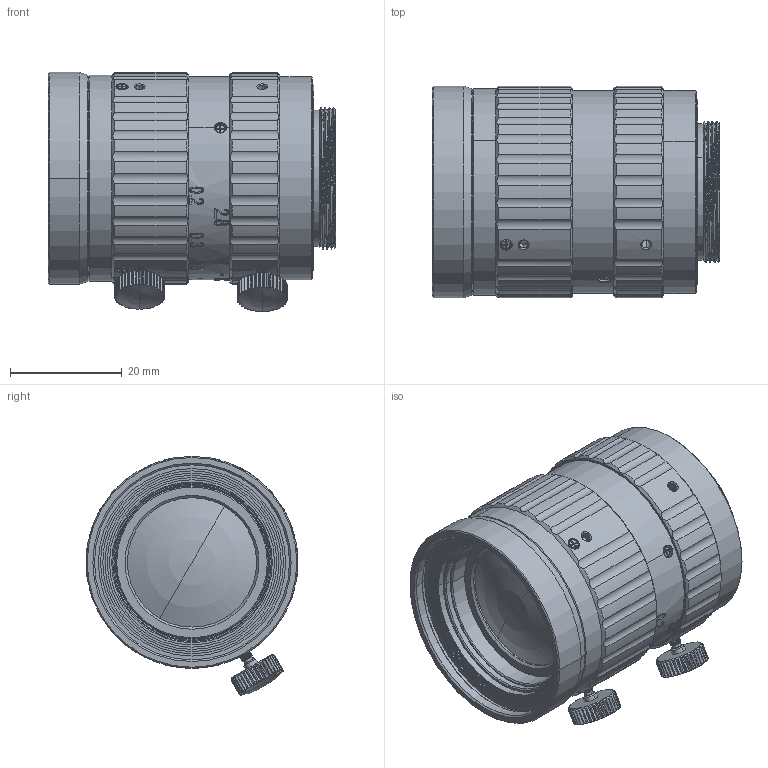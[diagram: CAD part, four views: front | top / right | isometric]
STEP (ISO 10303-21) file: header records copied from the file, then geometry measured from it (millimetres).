
FILE_DESCRIPTION((''),'2;1');
FILE_NAME('FA3520A-200_ASM_ASM','2019-03-25T',('Administrator'),(''),'PRO/ENGINEER BY PARAMETRIC TECHNOLOGY CORPORATION, 2010370','PRO/ENGINEER BY PARAMETRIC TECHNOLOGY CORPORATION, 2010370','');
FILE_SCHEMA(('CONFIG_CONTROL_DESIGN'));
Length unit declared in the file: millimetre
Products named in the file (22): MSBR-70; MSBR-69; MSBR-59; MSBR-58; MSBR-57; MSBR-56; MSBR-55; MSBR-54; MSBR-21; MSBR-20; MSBR-16; MSBR-15; MSBR-14; MSBR-13; MSBR-12; MSBR-11; MSBR-6; MSBR-5; MSBR-4; MSBR-2; MSBR-1; FA3520A-200_ASM_ASM
Assembly tree (21 placements, depth 2):
  FA3520A-200_ASM_ASM
    MSBR-70
    MSBR-69
    MSBR-59
    MSBR-58
    MSBR-57
    MSBR-56
    MSBR-55
    MSBR-54
    MSBR-21
    MSBR-20
    MSBR-16
    MSBR-15
    MSBR-14
    MSBR-13
    MSBR-12
    MSBR-11
    MSBR-6
    MSBR-5
    MSBR-4
    MSBR-2
    MSBR-1
Bounding box: 51.58 x 38 x 42.9 mm (x, y, z)
Volume: 27714.9 mm3; surface area: 31156.6 mm2
Topology: 21 solids, 21 shells, 1646 faces, 4269 edges, 2728 vertices
Faces by surface type: cylinder 520, plane 406, bspline 395, cone 275, torus 32, sphere 12, extrusion 6
Entity records: 81108 total; most frequent: CARTESIAN_POINT 43135, ORIENTED_EDGE 8514, DIRECTION 6789, EDGE_CURVE 4257, VERTEX_POINT 2728, AXIS2_PLACEMENT_3D 2630, EDGE_LOOP 1789, FACE_OUTER_BOUND 1646
